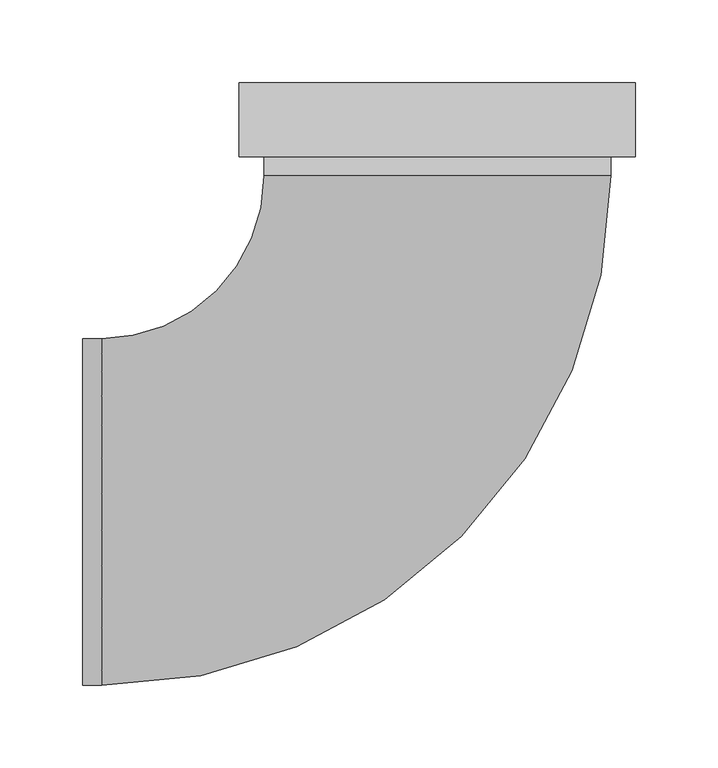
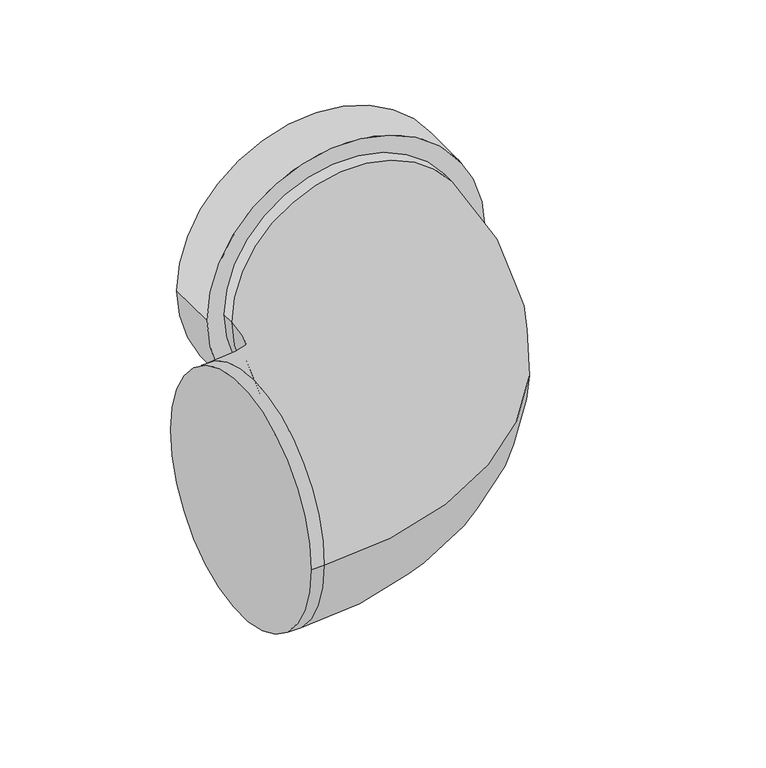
"""IFC4 building model written with IfcOpenShell, lengths in millimetres: duct fitting geometry, NLRS_57_DUF_UN_bend EPP_M&G : ø125 - ø180."""

from ifc_helpers import new_model, si_unit, point, frame, origin, origin_2d, place, context, project, spatial, circle_curve, ellipse_curve, trimmed, segment, composite_curve, outline, extrude, source, transform, mapped, element, save
from ifc_brep_helpers import plane_surface, cylinder_surface, revolved_surface, advanced_brep


def duct_fitting_b3f89179(model_context):
    return source(origin(), model_context, "Body", "SolidModel", [
        advanced_brep(
        [(-215.0, -105.0, 0.0), (-215.0, 105.0, 0.0), (-203.5, -105.0, 0.0), (-203.5, 105.0, 0.0), (-105.0, 203.5, 0.0), (105.0, 203.5, 0.0), (105.0, 215.0, 0.0), (-105.0, 215.0, 0.0)],
        [
            (0, 1, circle_curve(frame((-215.0, 0.0, 0.0), z_axis=(-1.0, 0.0, 0.0), x_axis=(0.0, 1.0, 0.0)), 105.0)),
            (1, 0, circle_curve(frame((-215.0, 0.0, 0.0), z_axis=(-1.0, 0.0, 0.0), x_axis=(0.0, 1.0, 0.0)), 105.0)),
            (0, 2),
            (2, 3, circle_curve(frame((-203.5, 0.0, 0.0), z_axis=(-1.0, 0.0, 0.0), x_axis=(0.0, 1.0, 0.0)), 105.0)),
            (3, 1),
            (3, 2, circle_curve(frame((-203.5, 0.0, 0.0), z_axis=(-1.0, 0.0, 0.0), x_axis=(0.0, 1.0, 0.0)), 105.0)),
            (4, 3, circle_curve(frame((-203.5, 203.5, 0.0), z_axis=(0.0, 0.0, -1.0), x_axis=(0.0, -1.0, 0.0)), 98.5)),
            (2, 5, circle_curve(frame((-203.5, 203.5, 0.0), z_axis=(0.0, 0.0, 1.0), x_axis=(0.0, -1.0, 0.0)), 308.5)),
            (5, 4, circle_curve(frame((0.0, 203.5, 0.0), z_axis=(0.0, -1.0, 0.0), x_axis=(-1.0, 0.0, 0.0)), 105.0)),
            (4, 5, circle_curve(frame((0.0, 203.5, 0.0), z_axis=(0.0, -1.0, 0.0), x_axis=(-1.0, 0.0, 0.0)), 105.0)),
            (6, 7, circle_curve(frame((0.0, 215.0, 0.0), z_axis=(0.0, 1.0, 0.0), x_axis=(-1.0, 0.0, 0.0)), 105.0)),
            (7, 6, circle_curve(frame((0.0, 215.0, 0.0), z_axis=(0.0, 1.0, 0.0), x_axis=(-1.0, 0.0, 0.0)), 105.0)),
            (5, 6),
            (7, 4),
        ],
        [
            plane_surface(frame((-215.0, 0.0, 0.0), z_axis=(-1.0, 0.0, 0.0), x_axis=(0.0, 0.0, 1.0))),
            cylinder_surface(frame((-215.0, 0.0, 0.0), z_axis=(-1.0, 0.0, 0.0), x_axis=(0.0, 1.0, 0.0)), 105.0),
            revolved_surface(trimmed(ellipse_curve(frame((-203.5, 0.0, 0.0), z_axis=(-1.0, 0.0, 0.0), x_axis=(0.0, 1.0, 0.0)), 105.0, 105.0), [point((-203.5, -105.0, 0.0))], [point((-203.5, 105.0, 0.0))], True, "CARTESIAN"), (-203.5, 203.5, 0.0), (0.0, 0.0, 1.0)),
            revolved_surface(trimmed(ellipse_curve(frame((-203.5, 0.0, 0.0), z_axis=(-1.0, 0.0, 0.0), x_axis=(0.0, 1.0, 0.0)), 105.0, 105.0), [point((-203.5, 105.0, 0.0))], [point((-203.5, -105.0, 0.0))], True, "CARTESIAN"), (-203.5, 203.5, 0.0), (0.0, 0.0, 1.0)),
            plane_surface(frame((0.0, 215.0, 0.0), z_axis=(0.0, 1.0, 0.0), x_axis=(0.0, 0.0, 1.0))),
            cylinder_surface(frame((0.0, 203.5, 0.0), z_axis=(0.0, -1.0, 0.0), x_axis=(-1.0, 0.0, 0.0)), 105.0),
        ],
        [
            (0, [[1, 2]]),
            (1, [[-1, 3, 4, 5]]),
            (1, [[-2, -5, 6, -3]]),
            (2, [[7, -4, 8, 9]]),
            (3, [[-8, -6, -7, 10]]),
            (4, [[11, 12]]),
            (5, [[-9, 13, -12, 14]]),
            (5, [[-10, -14, -11, -13]]),
        ],
    ),
        extrude(outline(composite_curve([segment(trimmed(circle_curve(origin_2d(), 120.0), [point((0.0, 120.0))], [point((0.0, -120.0))], False, "CARTESIAN"), True, "CONTINUOUS"), segment(trimmed(circle_curve(origin_2d(), 120.0), [point((0.0, -120.0))], [point((0.0, 120.0))], False, "CARTESIAN"), True, "CONTINUOUS")], self_intersect=False), holes=[composite_curve([segment(trimmed(circle_curve(origin_2d(), 105.0), [point((0.0, -105.0))], [point((0.0, 105.0))], True, "CARTESIAN"), True, "CONTINUOUS"), segment(trimmed(circle_curve(origin_2d(), 105.0), [point((0.0, 105.0))], [point((0.0, -105.0))], True, "CARTESIAN"), True, "CONTINUOUS")], self_intersect=False)]), frame((0.0, 215.0, 0.0), z_axis=(0.0, 1.0, 0.0), x_axis=(0.0, 0.0, 1.0)), (0.0, 0.0, 1.0), 45.0),
    ])


if __name__ == "__main__":
    model = new_model("IFC4")
    model_context = context("Model", 3, world=origin())
    ifc_project = project(units=[si_unit("LENGTHUNIT", "METRE", prefix="MILLI")], contexts=[model_context])
    site = spatial("IfcSite", under=ifc_project)
    building = spatial("IfcBuilding", under=site)
    placement = place(None, origin())
    duct_fitting_shape = duct_fitting_b3f89179(model_context)
    element("IfcDuctFitting", 1, ObjectType="NLRS_57_DUF_UN_bend EPP_M&G : ø125 - ø180", at=placement, inside=building, context=model_context, shape_type="MappedRepresentation", body=[
        mapped(duct_fitting_shape, transform((0.0, 0.0, 0.0), x_axis=(1.0, 0.0, 0.0), y_axis=(0.0, 1.0, 0.0), z_axis=(0.0, 0.0, 1.0))),
    ])
    save(model, "model.ifc")
